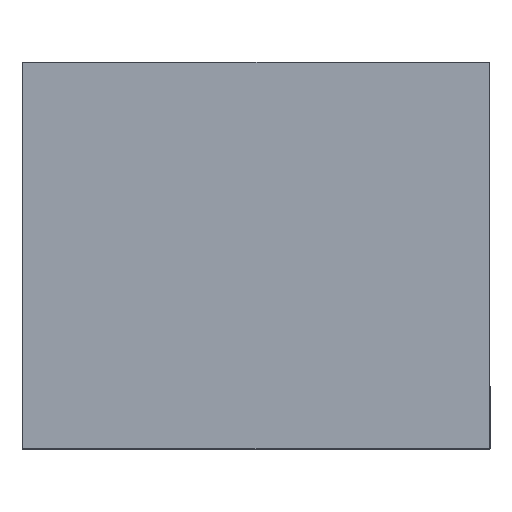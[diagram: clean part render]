
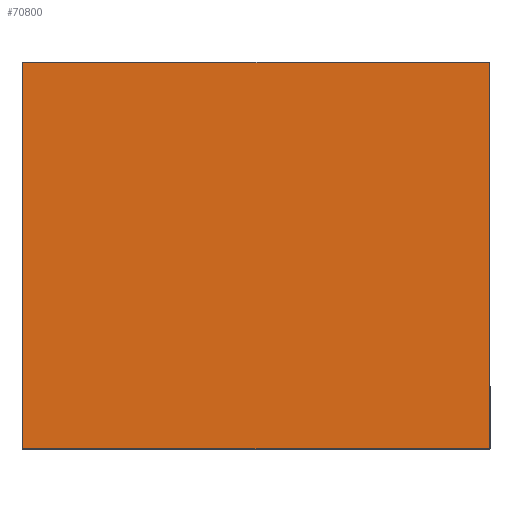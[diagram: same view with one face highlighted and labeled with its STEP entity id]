
A CAD part, top view. The second image highlights one B-rep face of the part: STEP entity #70800.
In plain terms, the highlighted planar face has unit normal (0, 0, 1).
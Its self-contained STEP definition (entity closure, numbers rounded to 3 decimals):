
#3362=PLANE('',#75020);
#16646=ORIENTED_EDGE('',*,*,#31856,.T.);
#16647=ORIENTED_EDGE('',*,*,#31857,.T.);
#16648=ORIENTED_EDGE('',*,*,#31858,.T.);
#16649=ORIENTED_EDGE('',*,*,#31859,.T.);
#31856=EDGE_CURVE('',#40366,#40341,#48519,.T.);
#31857=EDGE_CURVE('',#40341,#40356,#48520,.T.);
#31858=EDGE_CURVE('',#40356,#40373,#48521,.T.);
#31859=EDGE_CURVE('',#40373,#40366,#48522,.T.);
#40341=VERTEX_POINT('',#105794);
#40356=VERTEX_POINT('',#105832);
#40366=VERTEX_POINT('',#105859);
#40373=VERTEX_POINT('',#105873);
#48519=LINE('',#105897,#56119);
#48520=LINE('',#105898,#56120);
#48521=LINE('',#105899,#56121);
#48522=LINE('',#105900,#56122);
#56119=VECTOR('',#87138,1000.);
#56120=VECTOR('',#87139,1000.);
#56121=VECTOR('',#87140,1000.);
#56122=VECTOR('',#87141,1000.);
#61593=EDGE_LOOP('',(#16646,#16647,#16648,#16649));
#66368=FACE_BOUND('',#61593,.T.);
#70800=ADVANCED_FACE('',(#66368),#3362,.T.);
#75020=AXIS2_PLACEMENT_3D('',#105896,#87136,#87137);
#87136=DIRECTION('',(0.,0.,1.));
#87137=DIRECTION('',(1.,0.,0.));
#87138=DIRECTION('',(0.,-1.,0.));
#87139=DIRECTION('',(1.,0.,0.));
#87140=DIRECTION('',(0.,1.,0.));
#87141=DIRECTION('',(-1.,0.,0.));
#105794=CARTESIAN_POINT('',(-335.9,-277.55,0.7));
#105832=CARTESIAN_POINT('',(335.9,-277.55,0.7));
#105859=CARTESIAN_POINT('',(-335.9,277.55,0.7));
#105873=CARTESIAN_POINT('',(335.9,277.55,0.7));
#105896=CARTESIAN_POINT('',(0.,0.,0.7));
#105897=CARTESIAN_POINT('',(-335.9,277.55,0.7));
#105898=CARTESIAN_POINT('',(-335.9,-277.55,0.7));
#105899=CARTESIAN_POINT('',(335.9,-277.55,0.7));
#105900=CARTESIAN_POINT('',(335.9,277.55,0.7));
